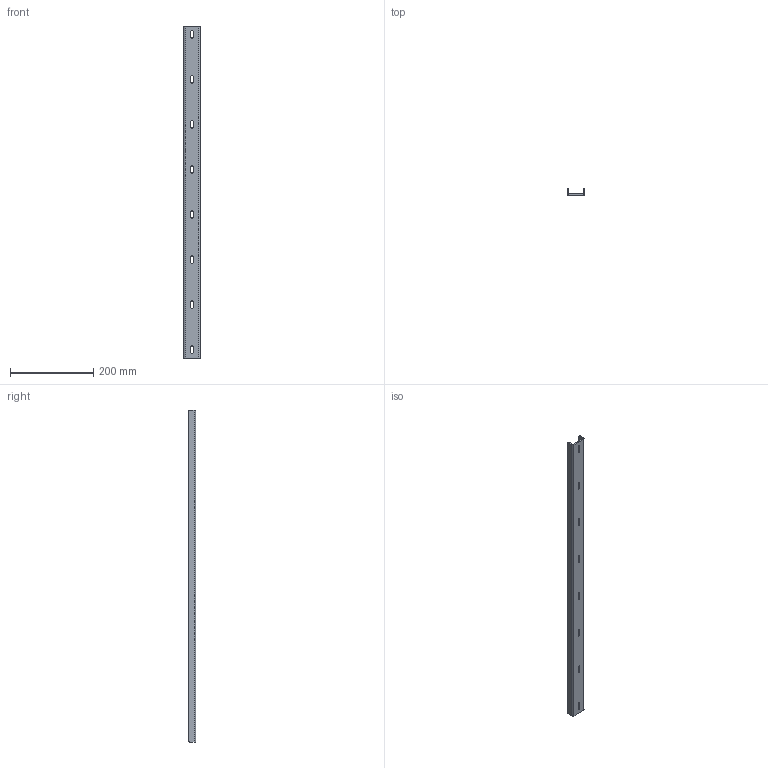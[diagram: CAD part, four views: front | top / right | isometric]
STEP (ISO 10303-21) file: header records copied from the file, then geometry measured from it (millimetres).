
FILE_DESCRIPTION (( 'STEP AP214' ), '1' );
FILE_NAME ('E441-800.STEP', '2022-05-20T09:23:51', ( '' ), ( '' ), 'SwSTEP 2.0', 'SolidWorks 2019', '' );
FILE_SCHEMA (( 'AUTOMOTIVE_DESIGN' ));
Length unit declared in the file: millimetre
Products named in the file (1): E441-800
Bounding box: 40 x 17 x 800 mm (x, y, z)
Volume: 156789.3 mm3; surface area: 110899.5 mm2
Topology: 1 solids, 1 shells, 102 faces, 288 edges, 192 vertices
Faces by surface type: plane 68, cylinder 30, bspline 4
Entity records: 3424 total; most frequent: CARTESIAN_POINT 683, ORIENTED_EDGE 576, DIRECTION 538, EDGE_CURVE 288, LINE 220, VECTOR 220, VERTEX_POINT 192, AXIS2_PLACEMENT_3D 159
